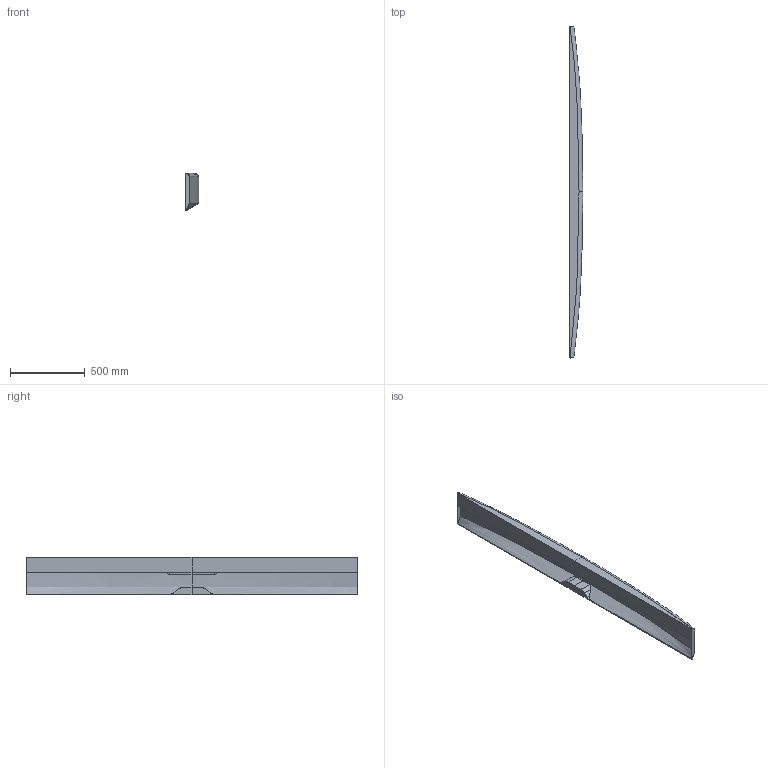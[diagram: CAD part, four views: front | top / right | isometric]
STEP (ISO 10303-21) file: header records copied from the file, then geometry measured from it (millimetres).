
FILE_DESCRIPTION(/* description */ (''),/* implementation_level */ '2;1');
FILE_NAME(/* name */ 'up_bumper',/* time_stamp */ '2018-02-20T19:08:58+01:00',/* author */ (''),/* organization */ (''),/* preprocessor_version */ 'ST-DEVELOPER v14',/* originating_system */ '',/* authorisation */ '');
FILE_SCHEMA (('CONFIG_CONTROL_DESIGN'));
Length unit declared in the file: millimetre
Products named in the file (1): Document
Bounding box: 90.5 x 2220 x 250.9 mm (x, y, z)
Surface area: 2043519.1 mm2 (no closed solid volume)
Topology: 0 solids, 1 shells, 107 faces, 262 edges, 153 vertices
Faces by surface type: bspline 93, plane 14
Entity records: 12297 total; most frequent: CARTESIAN_POINT 10702, ORIENTED_EDGE 506, EDGE_CURVE 262, B_SPLINE_CURVE_WITH_KNOTS 168, VERTEX_POINT 153, ADVANCED_FACE 107, FACE_OUTER_BOUND 107, EDGE_LOOP 107
